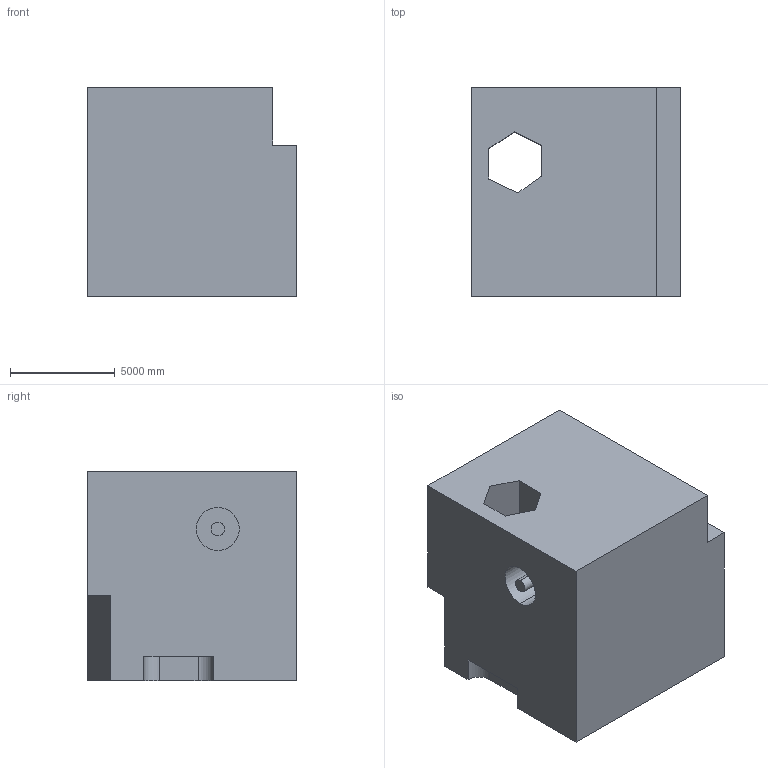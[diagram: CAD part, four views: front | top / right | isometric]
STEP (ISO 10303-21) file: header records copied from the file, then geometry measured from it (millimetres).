
FILE_DESCRIPTION (( 'STEP AP203' ), '1' );
FILE_NAME ('1490.STEP', '2022-08-18T14:47:46', ( 'user' ), ( '' ), 'SwSTEP 2.0', 'SolidWorks 2021', '' );
FILE_SCHEMA (( 'CONFIG_CONTROL_DESIGN' ));
Length unit declared in the file: centimetre
Products named in the file (1): 1490
Bounding box: 10000 x 10000 x 10000 mm (x, y, z)
Volume: 893948565114.9 mm3; surface area: 698230735.9 mm2
Topology: 1 solids, 1 shells, 26 faces, 66 edges, 44 vertices
Faces by surface type: plane 20, cylinder 6
Entity records: 863 total; most frequent: CARTESIAN_POINT 137, ORIENTED_EDGE 132, DIRECTION 132, EDGE_CURVE 66, VECTOR 54, LINE 54, VERTEX_POINT 44, AXIS2_PLACEMENT_3D 39
